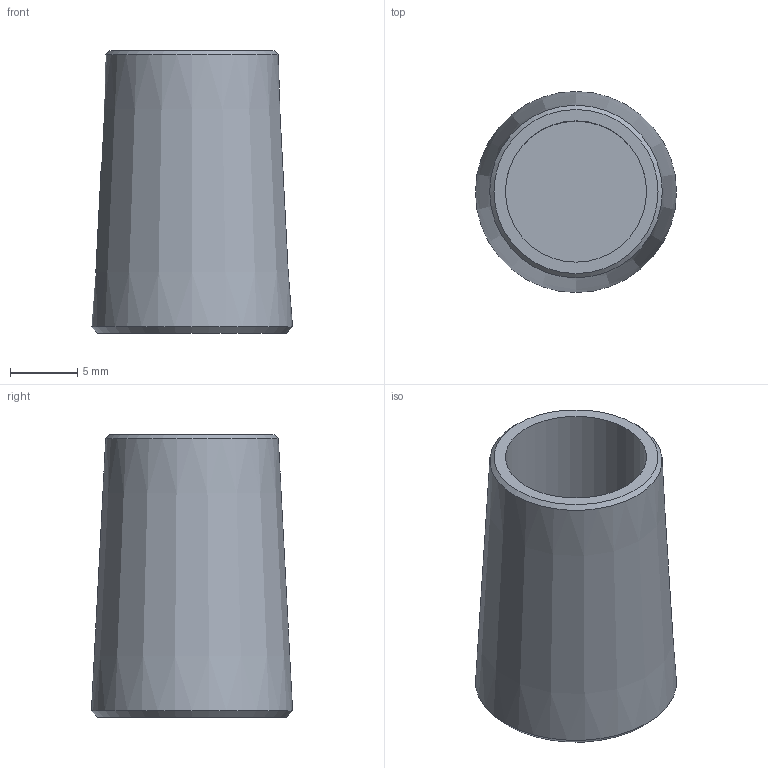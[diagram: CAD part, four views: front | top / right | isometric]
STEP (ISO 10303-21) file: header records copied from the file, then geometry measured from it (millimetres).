
FILE_DESCRIPTION(/* description */ (''),/* implementation_level */ '2;1');
FILE_NAME(/* name */ 'C:\Vault_WS\Designs\SB\01-PX\Verzinkt\ZSS\520 - Kontermutter\520-010-KMU.stp',/* time_stamp */ '2020-06-18T12:21:42+02:00',/* author */ ('schwarz'),/* organization */ (''),/* preprocessor_version */ 'ST-DEVELOPER v16.1',/* originating_system */ 'Autodesk Inventor 2016',/* authorisation */ '');
FILE_SCHEMA (('AUTOMOTIVE_DESIGN { 1 0 10303 214 3 1 1 }'));
Length unit declared in the file: millimetre
Products named in the file (1): Kontermutter 520 010 Kunde
Bounding box: 14.95 x 14.95 x 21 mm (x, y, z)
Volume: 1800.1 mm3; surface area: 1729.7 mm2
Topology: 1 solids, 1 shells, 7 faces, 10 edges, 6 vertices
Faces by surface type: cone 3, plane 3, cylinder 1
Full cylindrical faces by diameter (mm): 10.5 x1
Entity records: 158 total; most frequent: DIRECTION 28, CARTESIAN_POINT 20, AXIS2_PLACEMENT_3D 14, EDGE_LOOP 12, ORIENTED_EDGE 12, FACE_OUTER_BOUND 7, ADVANCED_FACE 7, CIRCLE 6
